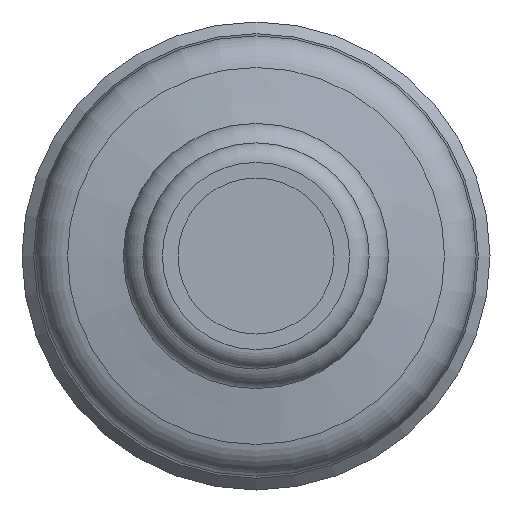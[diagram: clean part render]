
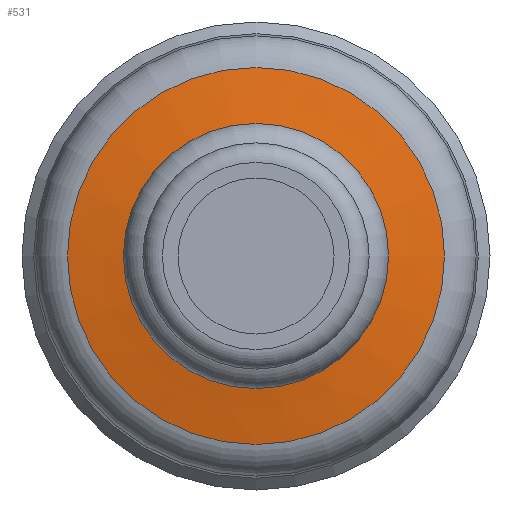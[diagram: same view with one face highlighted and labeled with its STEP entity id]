
A CAD part, left-side view. The second image highlights one B-rep face of the part: STEP entity #531.
In plain terms, the highlighted conical face has half-angle 80 degrees and reference radius 3.947 mm.
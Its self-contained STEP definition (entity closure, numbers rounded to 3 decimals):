
#497=CARTESIAN_POINT('',(-22.148,2.008,0.0));
#498=VERTEX_POINT('',#497);
#499=CARTESIAN_POINT('',(-22.148,-1.051,0.0));
#500=DIRECTION('',(1.0,0.0,0.0));
#501=DIRECTION('',(0.0,1.0,0.0));
#502=AXIS2_PLACEMENT_3D('',#499,#500,#501);
#503=CIRCLE('',#502,3.059);
#504=EDGE_CURVE('',#498,#498,#503,.T.);
#512=CARTESIAN_POINT('',(-21.992,-1.051,0.0));
#513=DIRECTION('',(1.0,0.,0.0));
#514=DIRECTION('',(0.0,1.0,0.0));
#515=AXIS2_PLACEMENT_3D('',#512,#513,#514);
#516=CONICAL_SURFACE('',#515,3.947,80.);
#517=CARTESIAN_POINT('',(-21.835,3.783,0.0));
#518=VERTEX_POINT('',#517);
#519=CARTESIAN_POINT('',(-21.835,-1.051,0.0));
#520=DIRECTION('',(1.0,0.0,0.0));
#521=DIRECTION('',(0.0,1.0,0.0));
#522=AXIS2_PLACEMENT_3D('',#519,#520,#521);
#523=CIRCLE('',#522,4.834);
#524=EDGE_CURVE('',#518,#518,#523,.T.);
#525=ORIENTED_EDGE('',*,*,#524,.F.);
#526=EDGE_LOOP('',(#525));
#527=FACE_OUTER_BOUND('',#526,.T.);
#528=ORIENTED_EDGE('',*,*,#504,.T.);
#529=EDGE_LOOP('',(#528));
#530=FACE_BOUND('',#529,.T.);
#531=ADVANCED_FACE('',(#527,#530),#516,.T.);
